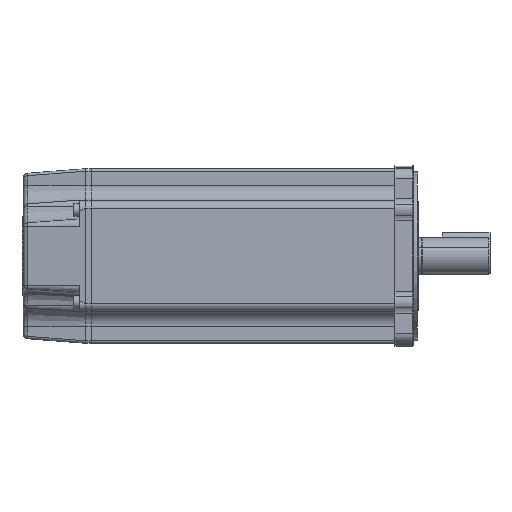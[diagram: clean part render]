
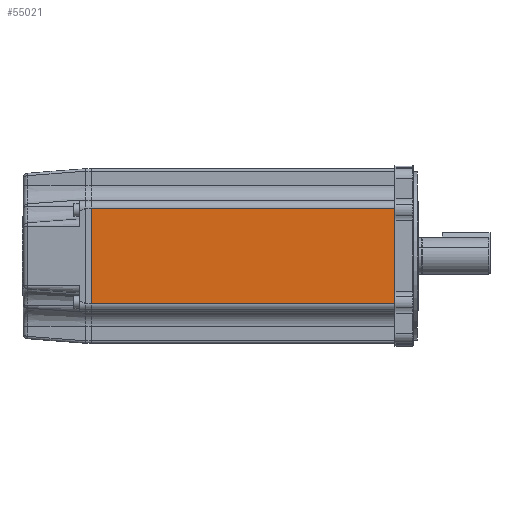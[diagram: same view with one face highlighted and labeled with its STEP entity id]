
A CAD part, front view. The second image highlights one B-rep face of the part: STEP entity #55021.
In plain terms, the highlighted planar face has unit normal (0, -1, 0).
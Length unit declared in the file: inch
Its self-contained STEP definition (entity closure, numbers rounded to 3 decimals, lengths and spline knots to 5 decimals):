
#1311 = ORIENTED_EDGE ( 'NONE', *, *, #48467, .T. ) ;
#3610 = VECTOR ( 'NONE', #42579, 39.37008 ) ;
#5255 = PLANE ( 'NONE',  #15698 ) ;
#5896 = CARTESIAN_POINT ( 'NONE',  ( -0.48, -2.24, -1.2275 ) ) ;
#8039 = VERTEX_POINT ( 'NONE', #5896 ) ;
#13627 = EDGE_CURVE ( 'NONE', #17112, #17350, #52501, .T. ) ;
#13921 = VECTOR ( 'NONE', #35320, 39.37008 ) ;
#13958 = CARTESIAN_POINT ( 'NONE',  ( -0.48, -2.24, 1.2275 ) ) ;
#14630 = ORIENTED_EDGE ( 'NONE', *, *, #22515, .F. ) ;
#15698 = AXIS2_PLACEMENT_3D ( 'NONE', #19731, #52838, #24507 ) ;
#16377 = ORIENTED_EDGE ( 'NONE', *, *, #13627, .T. ) ;
#16626 = CARTESIAN_POINT ( 'NONE',  ( -0.48, -2.24, -2.24 ) ) ;
#17112 = VERTEX_POINT ( 'NONE', #13958 ) ;
#17350 = VERTEX_POINT ( 'NONE', #30283 ) ;
#18796 = CARTESIAN_POINT ( 'NONE',  ( -0.48, -2.24, -1.2275 ) ) ;
#19731 = CARTESIAN_POINT ( 'NONE',  ( -8.26, -2.24, -2.24 ) ) ;
#21412 = DIRECTION ( 'NONE',  ( 0., 0., 1. ) ) ;
#22515 = EDGE_CURVE ( 'NONE', #43065, #17350, #26502, .T. ) ;
#23577 = DIRECTION ( 'NONE',  ( 1., 0., 0. ) ) ;
#24507 = DIRECTION ( 'NONE',  ( 0., 0., 1. ) ) ;
#25292 = EDGE_LOOP ( 'NONE', ( #1311, #16377, #14630, #26647 ) ) ;
#26502 = LINE ( 'NONE', #53335, #13921 ) ;
#26647 = ORIENTED_EDGE ( 'NONE', *, *, #44654, .T. ) ;
#30283 = CARTESIAN_POINT ( 'NONE',  ( -8.26, -2.24, 1.2275 ) ) ;
#35320 = DIRECTION ( 'NONE',  ( 0., 0., 1. ) ) ;
#35818 = LINE ( 'NONE', #16626, #59534 ) ;
#38628 = CARTESIAN_POINT ( 'NONE',  ( -8.26, -2.24, -1.2275 ) ) ;
#42579 = DIRECTION ( 'NONE',  ( -1., 0., 0. ) ) ;
#42902 = VECTOR ( 'NONE', #23577, 39.37008 ) ;
#43065 = VERTEX_POINT ( 'NONE', #38628 ) ;
#44654 = EDGE_CURVE ( 'NONE', #43065, #8039, #55520, .T. ) ;
#48467 = EDGE_CURVE ( 'NONE', #8039, #17112, #35818, .T. ) ;
#50621 = FACE_OUTER_BOUND ( 'NONE', #25292, .T. ) ;
#52501 = LINE ( 'NONE', #56707, #3610 ) ;
#52838 = DIRECTION ( 'NONE',  ( 0., 1., 0. ) ) ;
#53335 = CARTESIAN_POINT ( 'NONE',  ( -8.26, -2.24, -2.24 ) ) ;
#55021 = ADVANCED_FACE ( 'NONE', ( #50621 ), #5255, .F. ) ;
#55520 = LINE ( 'NONE', #18796, #42902 ) ;
#56707 = CARTESIAN_POINT ( 'NONE',  ( -8.26, -2.24, 1.2275 ) ) ;
#59534 = VECTOR ( 'NONE', #21412, 39.37008 ) ;
